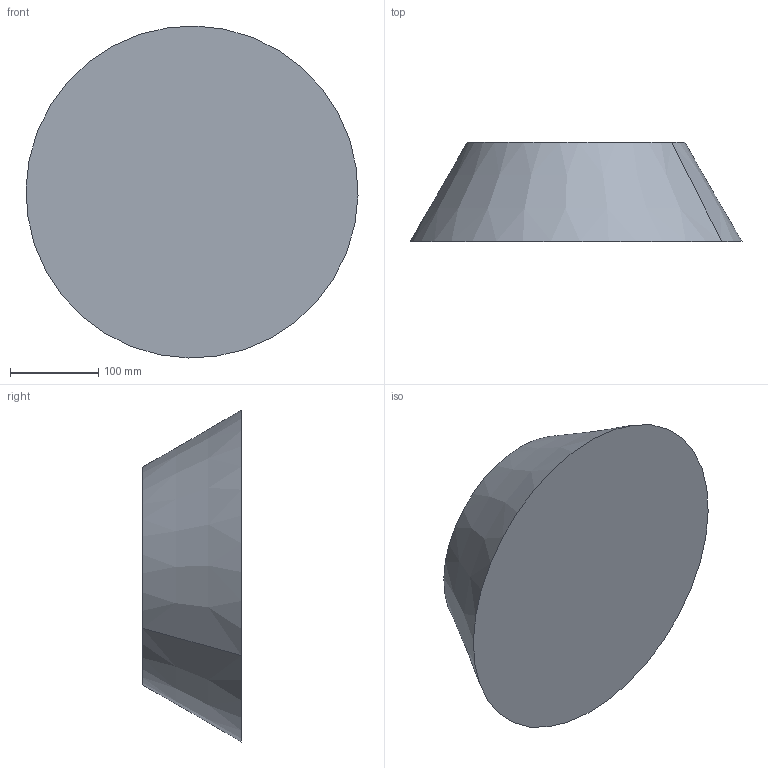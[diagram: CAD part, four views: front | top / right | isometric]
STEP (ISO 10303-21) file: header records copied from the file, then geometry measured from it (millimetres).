
FILE_DESCRIPTION(('CATIA V5 STEP Exchange'),'2;1');
FILE_NAME('C:\_Andres\UNIVERSIDAD\IQS\ASIGNATURAS\DAO\EXF\EXF-16172c\2inicio\Esteba_Torres_Ej09_v12.stp','2017-03-05T22:13:11+00:00',('none'),('none'),'CATIA Version 5-6 Release 2014 SP1 HF18','CATIA V5 STEP AP203','none');
FILE_SCHEMA(('CONFIG_CONTROL_DESIGN'));
Length unit declared in the file: millimetre
Products named in the file (1): Esteba_Torres_Ej09_v12
Bounding box: 375.9 x 112 x 375.9 mm (x, y, z)
Volume: 8641208.6 mm3; surface area: 287518.7 mm2
Topology: 1 solids, 2 shells, 8 faces, 12 edges, 8 vertices
Faces by surface type: plane 4, cone 2, cylinder 2
Entity records: 205 total; most frequent: CARTESIAN_POINT 27, DIRECTION 24, ORIENTED_EDGE 24, AXIS2_PLACEMENT_3D 15, EDGE_CURVE 12, ADVANCED_FACE 8, CIRCLE 8, EDGE_LOOP 8
